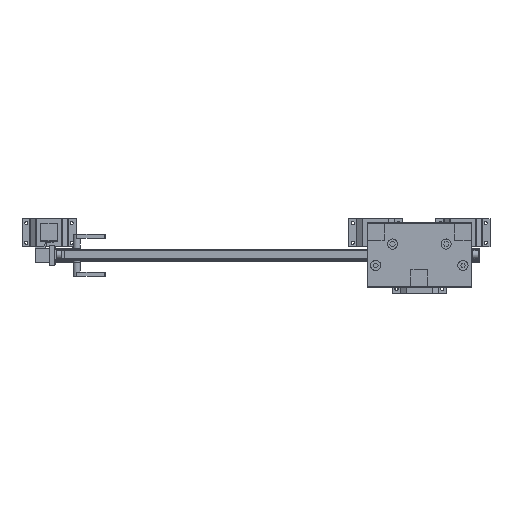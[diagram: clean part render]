
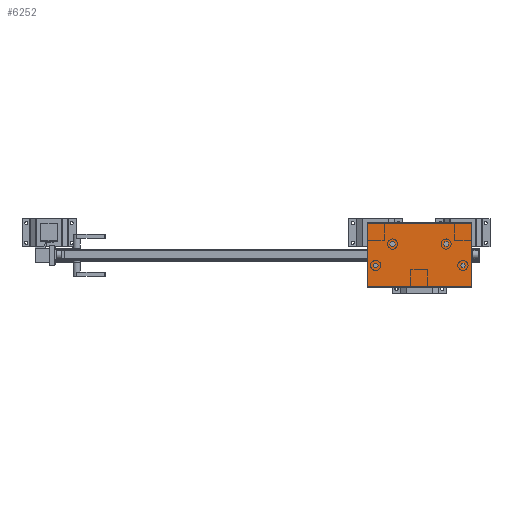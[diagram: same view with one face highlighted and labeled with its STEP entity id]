
A CAD part, top view. The second image highlights one B-rep face of the part: STEP entity #6252.
In plain terms, the highlighted planar face has unit normal (0, 0, 1).
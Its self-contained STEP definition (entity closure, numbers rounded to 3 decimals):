
#914=FACE_OUTER_BOUND('',#1399,.T.);
#1399=EDGE_LOOP('',(#4648,#4649,#4650,#4651));
#2031=VERTEX_POINT('',#15582);
#2032=VERTEX_POINT('',#15583);
#2033=VERTEX_POINT('',#15585);
#2034=VERTEX_POINT('',#15587);
#2957=EDGE_CURVE('',#2031,#2032,#7606,.T.);
#2958=EDGE_CURVE('',#2033,#2031,#7607,.T.);
#2959=EDGE_CURVE('',#2033,#2034,#7608,.T.);
#2960=EDGE_CURVE('',#2032,#2034,#7609,.T.);
#4648=ORIENTED_EDGE('',*,*,#2957,.F.);
#4649=ORIENTED_EDGE('',*,*,#2958,.F.);
#4650=ORIENTED_EDGE('',*,*,#2959,.T.);
#4651=ORIENTED_EDGE('',*,*,#2960,.F.);
#5804=PLANE('',#9524);
#6252=ADVANCED_FACE('',(#914),#5804,.T.);
#7606=LINE('',#15584,#8685);
#7607=LINE('',#15586,#8686);
#7608=LINE('',#15588,#8687);
#7609=LINE('',#15589,#8688);
#8685=VECTOR('',#11300,1.);
#8686=VECTOR('',#11301,1.);
#8687=VECTOR('',#11302,1.);
#8688=VECTOR('',#11303,1.);
#9524=AXIS2_PLACEMENT_3D('',#15581,#11298,#11299);
#11298=DIRECTION('center_axis',(0.,0.,1.));
#11299=DIRECTION('ref_axis',(1.,0.,0.));
#11300=DIRECTION('',(0.,1.,0.));
#11301=DIRECTION('',(-1.,0.,0.));
#11302=DIRECTION('',(0.,1.,0.));
#11303=DIRECTION('',(1.,0.,0.));
#15581=CARTESIAN_POINT('Origin',(2968.517,1887.18,2033.));
#15582=CARTESIAN_POINT('',(2968.517,1887.18,2033.));
#15583=CARTESIAN_POINT('',(2968.517,2117.18,2033.));
#15584=CARTESIAN_POINT('',(2968.517,1887.18,2033.));
#15585=CARTESIAN_POINT('',(3338.517,1887.18,2033.));
#15586=CARTESIAN_POINT('',(3338.517,1887.18,2033.));
#15587=CARTESIAN_POINT('',(3338.517,2117.18,2033.));
#15588=CARTESIAN_POINT('',(3338.517,1887.18,2033.));
#15589=CARTESIAN_POINT('',(3153.517,2117.18,2033.));
